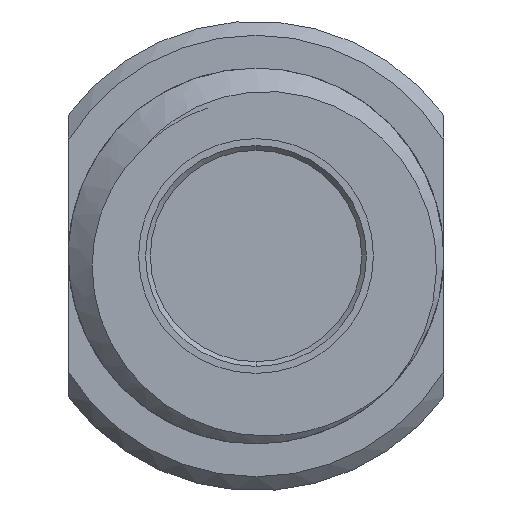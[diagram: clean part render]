
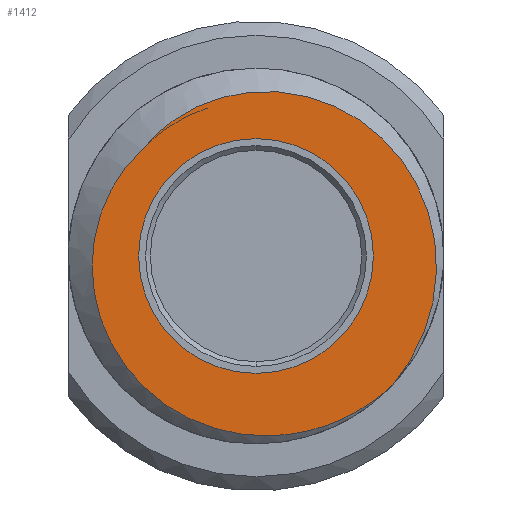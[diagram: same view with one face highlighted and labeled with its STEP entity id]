
A CAD part, front view. The second image highlights one B-rep face of the part: STEP entity #1412.
In plain terms, the highlighted planar face has unit normal (0, -1, 0).
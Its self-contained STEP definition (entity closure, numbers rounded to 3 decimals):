
#1=CARTESIAN_POINT('',(-2.421,-23.7,2.271));
#2=CARTESIAN_POINT('',(-2.565,-23.7,2.137));
#3=CARTESIAN_POINT('',(-2.824,-23.7,1.847));
#4=CARTESIAN_POINT('',(-3.137,-23.7,1.345));
#5=CARTESIAN_POINT('',(-3.358,-23.7,0.793));
#6=CARTESIAN_POINT('',(-3.482,-23.7,0.202));
#7=CARTESIAN_POINT('',(-3.503,-23.7,-0.4));
#8=CARTESIAN_POINT('',(-3.417,-23.7,-1.01));
#9=CARTESIAN_POINT('',(-3.229,-23.7,-1.591));
#10=CARTESIAN_POINT('',(-2.939,-23.7,-2.143));
#11=CARTESIAN_POINT('',(-2.558,-23.7,-2.637));
#12=CARTESIAN_POINT('',(-2.092,-23.7,-3.066));
#13=CARTESIAN_POINT('',(-1.556,-23.7,-3.41));
#14=CARTESIAN_POINT('',(-0.977,-23.7,-3.656));
#15=CARTESIAN_POINT('',(-0.377,-23.7,-3.798));
#16=CARTESIAN_POINT('',(0.179,-23.7,-3.841));
#17=CARTESIAN_POINT('',(0.668,-23.7,-3.812));
#18=CARTESIAN_POINT('',(1.107,-23.7,-3.733));
#19=CARTESIAN_POINT('',(1.508,-23.7,-3.614));
#20=CARTESIAN_POINT('',(1.891,-23.7,-3.455));
#21=CARTESIAN_POINT('',(2.26,-23.7,-3.254));
#22=CARTESIAN_POINT('',(2.606,-23.7,-3.014));
#23=CARTESIAN_POINT('',(2.817,-23.7,-2.833));
#24=CARTESIAN_POINT('',(2.917,-23.7,-2.737));
#26=CARTESIAN_POINT('',(2.917,-23.7,-2.737));
#27=CARTESIAN_POINT('',(3.066,-23.7,-2.56));
#28=CARTESIAN_POINT('',(3.327,-23.7,-2.188));
#29=CARTESIAN_POINT('',(3.617,-23.7,-1.577));
#30=CARTESIAN_POINT('',(3.797,-23.7,-0.923));
#31=CARTESIAN_POINT('',(3.862,-23.7,-0.259));
#32=CARTESIAN_POINT('',(3.812,-23.7,0.405));
#33=CARTESIAN_POINT('',(3.649,-23.7,1.045));
#34=CARTESIAN_POINT('',(3.381,-23.7,1.641));
#35=CARTESIAN_POINT('',(3.013,-23.7,2.182));
#36=CARTESIAN_POINT('',(2.566,-23.7,2.641));
#37=CARTESIAN_POINT('',(2.044,-23.7,3.018));
#38=CARTESIAN_POINT('',(1.474,-23.7,3.291));
#39=CARTESIAN_POINT('',(0.865,-23.7,3.462));
#40=CARTESIAN_POINT('',(0.243,-23.7,3.522));
#41=CARTESIAN_POINT('',(-0.374,-23.7,3.472));
#42=CARTESIAN_POINT('',(-0.971,-23.7,3.314));
#43=CARTESIAN_POINT('',(-1.52,-23.7,3.058));
#44=CARTESIAN_POINT('',(-2.018,-23.7,2.706));
#45=CARTESIAN_POINT('',(-2.295,-23.7,2.425));
#46=CARTESIAN_POINT('',(-2.421,-23.7,2.271));
#1236=CARTESIAN_POINT('',(0.,-23.7,0.));
#1237=DIRECTION('',(0.,1.,0.));
#1238=DIRECTION('',(0.,0.,1.));
#1239=AXIS2_PLACEMENT_3D('',#1236,#1237,#1238);
#1245=CARTESIAN_POINT('',(0.,-23.7,0.));
#1246=DIRECTION('',(0.,-1.,0.));
#1247=DIRECTION('',(0.,0.,1.));
#1248=AXIS2_PLACEMENT_3D('',#1245,#1246,#1247);
#1288=CARTESIAN_POINT('',(0.,-23.7,2.5));
#1290=VERTEX_POINT('',#1288);
#1308=CARTESIAN_POINT('',(0.,-23.7,-2.5));
#1310=VERTEX_POINT('',#1308);
#1360=VERTEX_POINT('',#1);
#1361=VERTEX_POINT('',#24);
#1395=CARTESIAN_POINT('',(0.,-23.7,0.));
#1396=DIRECTION('',(0.,-1.,0.));
#1397=DIRECTION('',(0.,0.,1.));
#1398=AXIS2_PLACEMENT_3D('',#1395,#1396,#1397);
#1399=PLANE('',#1398);
#1401=ORIENTED_EDGE('',*,*,#1400,.F.);
#1403=ORIENTED_EDGE('',*,*,#1402,.F.);
#1404=EDGE_LOOP('',(#1401,#1403));
#1405=FACE_OUTER_BOUND('',#1404,.F.);
#1407=ORIENTED_EDGE('',*,*,#1406,.F.);
#1409=ORIENTED_EDGE('',*,*,#1408,.T.);
#1410=EDGE_LOOP('',(#1407,#1409));
#1411=FACE_BOUND('',#1410,.F.);
#1412=ADVANCED_FACE('',(#1405,#1411),#1399,.T.);
#25=B_SPLINE_CURVE_WITH_KNOTS('',3,(#1,#2,#3,#4,#5,#6,#7,#8,#9,#10,#11,#12,#13,
#14,#15,#16,#17,#18,#19,#20,#21,#22,#23,#24),.UNSPECIFIED.,.F.,.F.,(4,1,1,1,1,1,
1,1,1,1,1,1,1,1,1,1,1,1,1,1,1,4),(0.,0.048,0.095,
0.143,0.19,0.238,0.286,
0.333,0.381,0.429,0.476,
0.524,0.571,0.619,0.667,
0.714,0.762,0.81,0.857,
0.905,0.952,1.),.UNSPECIFIED.);
#47=B_SPLINE_CURVE_WITH_KNOTS('',3,(#26,#27,#28,#29,#30,#31,#32,#33,#34,#35,#36,
#37,#38,#39,#40,#41,#42,#43,#44,#45,#46),.UNSPECIFIED.,.F.,.F.,(4,1,1,1,1,1,1,1,
1,1,1,1,1,1,1,1,1,1,4),(0.,0.056,0.111,
0.167,0.222,0.278,0.333,
0.389,0.444,0.5,0.556,0.611,
0.667,0.722,0.778,0.833,
0.889,0.944,1.),.UNSPECIFIED.);
#1240=CIRCLE('',#1239,2.5);
#1249=CIRCLE('',#1248,2.5);
#1400=EDGE_CURVE('',#1360,#1361,#25,.T.);
#1402=EDGE_CURVE('',#1361,#1360,#47,.T.);
#1406=EDGE_CURVE('',#1290,#1310,#1240,.T.);
#1408=EDGE_CURVE('',#1290,#1310,#1249,.T.);
